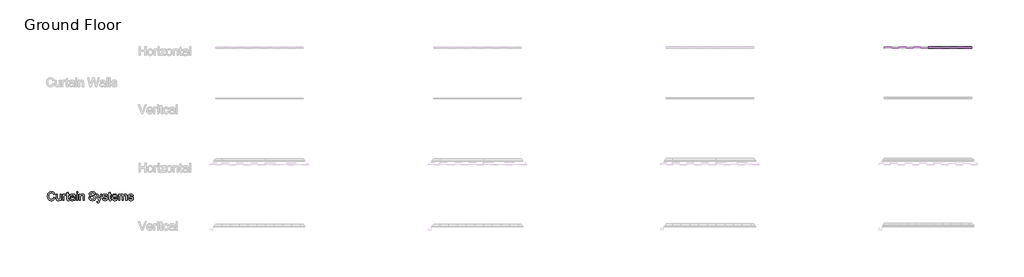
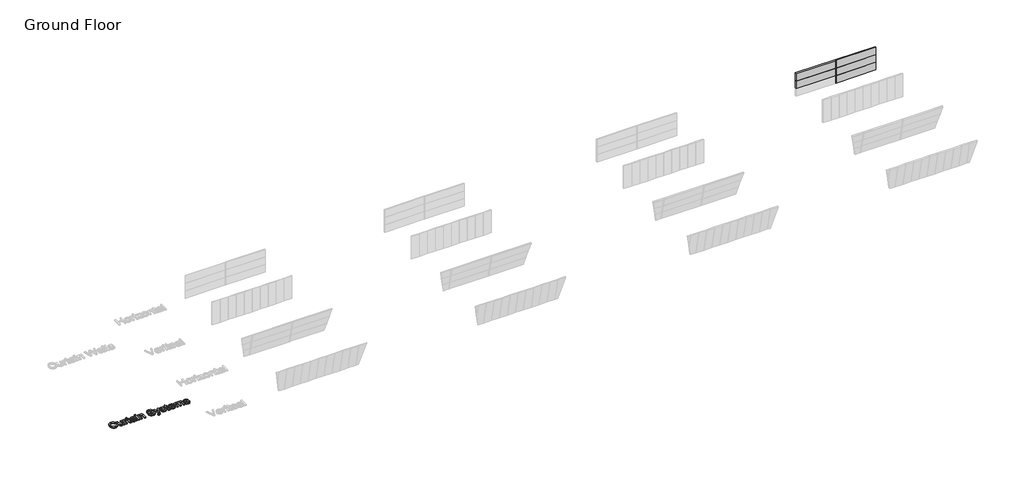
# One storey, part 3 of 9: 5 plates, 3 members, 1 proxy.
"""IFC4 building model written with IfcOpenShell, lengths in millimetres."""

from ifc_helpers import new_model, si_unit, origin, origin_with_axes, place, context, project, spatial, polyline, outline, extrude, transform, mapped, element, save
from components import rectangular_mullion_pi_mullion_20gap_50depth_70width_d0ed6173, system_panel_2d42fb1b

model = new_model("IFC4")

# Units and contexts
model_context = context("Model", 3, world=origin())
ifc_project = project(units=[si_unit("LENGTHUNIT", "METRE", prefix="MILLI")], contexts=[model_context])

# Site, building, storey
site = spatial("IfcSite", under=ifc_project)
building = spatial("IfcBuilding", under=site)
storey = spatial("IfcBuildingStorey", under=building, Name="Ground Floor", Elevation=0.0)

# Proxy
placement = place(None, origin())
element("IfcBuildingElementProxy", 1, Name="1200mm Arial", ObjectType="1200mm Arial", at=placement, inside=storey, context=model_context, shape_type="SweptSolid", body=[
    extrude(outline(polyline([(-73278.3441207, -15688.8792454), (-73131.4350298, -15726.7542454), (-73160.5048096, -15818.1151296), (-73178.6577304, -15859.4714196), (-73199.2226718, -15897.9449414), (-73222.1996338, -15933.5356952), (-73247.5886164, -15966.2436808), (-73275.3896196, -15996.0688983), (-73305.6026434, -16023.0113477), (-73337.9004062, -16046.9185964), (-73371.9556264, -16067.638212), (-73407.7683039, -16085.1701945), (-73445.3384389, -16099.5145437), (-73484.6660312, -16110.6712598), (-73525.7510809, -16118.6403427), (-73568.593588, -16123.4217925), (-73613.1935525, -16125.0156091), (-73702.7790461, -16120.1915679), (-73783.595186, -16105.7194443), (-73855.6419722, -16081.5992383), (-73918.9194048, -16047.83095), (-73974.2972457, -16004.9167099), (-74022.645257, -15953.3586488), (-74063.9634389, -15893.1567667), (-74098.2517911, -15824.3110636), (-74125.1785489, -15749.7984571), (-74144.4119474, -15672.5958647), (-74155.9519864, -15592.7032866), (-74159.7986661, -15510.1207227), (-74155.4498558, -15421.5125906), (-74142.4034247, -15338.7506943), (-74120.6593728, -15261.8350338), (-74090.2177002, -15190.7656091), (-74051.75987, -15126.7170473), (-74005.9673451, -15070.8639755), (-73952.8401256, -15023.2063939), (-73892.3782116, -14983.7443022), (-73826.6349587, -14952.800499), (-73757.663723, -14930.6977823), (-73685.4645042, -14917.4361524), (-73610.0373025, -14913.0156091), (-73526.0111129, -14918.7363122), (-73448.9609531, -14935.8984216), (-73413.0518844, -14948.7700036), (-73378.8868231, -14964.5019372), (-73346.4657693, -14983.0942223), (-73315.788723, -15004.5468591), (-73287.115716, -15028.5953321), (-73260.7067805, -15054.9751261), (-73236.5619163, -15083.6862412), (-73214.6811235, -15114.7286772), (-73177.7117521, -15183.8075125), (-73149.7986661, -15262.2116318), (-73296.707757, -15297.2173136), (-73319.8416349, -15239.4453853), (-73347.6381548, -15190.084146), (-73380.0973167, -15149.1335956), (-73417.2191207, -15116.5937341), (-73459.2187656, -15091.8010316), (-73506.3114502, -15074.0919585), (-73558.4971747, -15063.4665146), (-73615.7759389, -15059.9247), (-73681.6805908, -15063.8520792), (-73741.9542059, -15075.634217), (-73796.596784, -15095.2711133), (-73845.6083252, -15122.7627681), (-73888.3701328, -15156.871788), (-73924.2635099, -15196.3607795), (-73953.2884566, -15241.2297426), (-73975.444973, -15291.4786772), (-73991.8269864, -15344.8300622), (-74003.5284247, -15399.0063761), (-74010.5492876, -15454.007619), (-74012.8895752, -15509.8337909), (-74010.1188899, -15579.9886204), (-74001.8068337, -15645.5525409), (-73987.9534069, -15706.5255522), (-73968.5586093, -15762.9076545), (-73943.3086093, -15813.5780203), (-73911.8895752, -15857.4158221), (-73874.301507, -15894.42106), (-73830.5444048, -15924.5937341), (-73782.7433572, -15948.0055771), (-73733.0234531, -15964.7283221), (-73681.3846924, -15974.7619691), (-73627.8270752, -15978.1065181), (-73563.9578458, -15973.5514755), (-73505.1995894, -15959.8863477), (-73451.552306, -15937.1111346), (-73403.0159957, -15905.2258363), (-73360.7383856, -15864.3739187), (-73325.8672031, -15814.6988477), (-73298.4024481, -15756.2006233), (-73278.3441207, -15688.8792454)])), origin_with_axes(), (0.0, 0.0, 1.0), 150.0),
    extrude(outline(polyline([(-72396.8895752, -16106.6519727), (-72396.8895752, -15958.3082227), (-72422.3727073, -15997.3802664), (-72450.0436945, -16031.2427042), (-72479.9025369, -16059.8955363), (-72511.9492343, -16083.3387625), (-72546.1837869, -16101.5723828), (-72582.6061945, -16114.5963974), (-72621.2164573, -16122.4108061), (-72662.0145752, -16125.0156091), (-72698.410083, -16123.1864187), (-72733.5681974, -16117.6988477), (-72767.4889183, -16108.552896), (-72800.1722457, -16095.7485636), (-72830.1745539, -16080.1825125), (-72856.0522173, -16062.7514045), (-72877.8052357, -16043.4552397), (-72895.4336093, -16022.2940181), (-72909.8429666, -15998.9628747), (-72921.938936, -15973.1569443), (-72939.1907116, -15914.1207227), (-72945.6466775, -15858.45595), (-72947.7986661, -15777.5411772), (-72947.7986661, -15243.5610636), (-72800.8895752, -15243.5610636), (-72800.8895752, -15708.3906091), (-72798.6658536, -15801.3565181), (-72791.9946889, -15858.1690181), (-72783.1984353, -15884.647445), (-72770.5824019, -15908.131021), (-72754.1465887, -15928.6197461), (-72733.8909957, -15946.1136204), (-72710.4253529, -15960.1105132), (-72684.3593906, -15970.1082937), (-72655.6931086, -15976.106962), (-72624.426507, -15978.1065181), (-72592.2273771, -15976.0621289), (-72561.0504417, -15969.9289613), (-72530.8957009, -15959.7070153), (-72501.7631548, -15945.3962909), (-72475.2309282, -15927.561685), (-72452.8771462, -15906.7680948), (-72434.7018089, -15883.0155203), (-72420.7049161, -15856.3039613), (-72410.2857045, -15824.9297603), (-72402.8434105, -15787.1892596), (-72398.378034, -15743.0824592), (-72396.8895752, -15692.6093591), (-72396.8895752, -15243.5610636), (-72249.9804843, -15243.5610636), (-72249.9804843, -16106.6519727), (-72396.8895752, -16106.6519727)])), origin_with_axes(), (0.0, 0.0, 1.0), 150.0),
    extrude(outline(polyline([(-72047.9804843, -16106.6519727), (-72047.9804843, -15243.5610636), (-71919.4350298, -15243.5610636), (-71919.4350298, -15371.2457227), (-71895.2251576, -15330.4296716), (-71871.9478139, -15297.2173136), (-71849.6029985, -15271.6086488), (-71828.1907116, -15253.6036772), (-71806.7425582, -15241.1759429), (-71784.2901434, -15232.2989897), (-71760.8334673, -15226.9728179), (-71736.3725298, -15225.1974272), (-71699.9321889, -15228.0308789), (-71663.2049161, -15236.5312341), (-71626.1907116, -15250.6984926), (-71588.8895752, -15270.5326545), (-71637.9549161, -15402.2343591), (-71663.7787798, -15389.0534287), (-71689.6026434, -15379.6384784), (-71715.426507, -15373.9895082), (-71741.2503707, -15372.1065181), (-71763.7655518, -15373.9177752), (-71785.1150724, -15379.3515466), (-71805.2989325, -15388.4078321), (-71824.317132, -15401.0866318), (-71841.4523416, -15416.9754812), (-71855.9872315, -15435.6619159), (-71867.9218018, -15457.1459358), (-71877.2560525, -15481.4275409), (-71887.6752641, -15521.5262625), (-71895.1175582, -15563.4900409), (-71901.0713934, -15653.0127681), (-71901.0713934, -16106.6519727), (-72047.9804843, -16106.6519727)])), origin_with_axes(), (0.0, 0.0, 1.0), 150.0),
    extrude(outline(polyline([(-71184.8895752, -15984.1320863), (-71166.5259389, -16110.95595), (-71224.701365, -16121.5006943), (-71276.4208252, -16125.0156091), (-71313.9192272, -16123.4912838), (-71346.9343195, -16118.9183079), (-71375.4661022, -16111.2966815), (-71399.5145752, -16100.6264045), (-71419.7074019, -16087.4813406), (-71436.6722457, -16072.4353534), (-71450.4091065, -16055.4884429), (-71460.9179843, -16036.6406091), (-71468.7010099, -16011.3726758), (-71474.2603139, -15975.165467), (-71478.707757, -15869.9332227), (-71478.707757, -15390.4701545), (-71588.8895752, -15390.4701545), (-71588.8895752, -15243.5610636), (-71478.707757, -15243.5610636), (-71478.707757, -15033.8139045), (-71331.7986661, -14947.4474272), (-71331.7986661, -15243.5610636), (-71184.8895752, -15243.5610636), (-71184.8895752, -15390.4701545), (-71331.7986661, -15390.4701545), (-71331.7986661, -15865.6292454), (-71329.8618764, -15913.9772568), (-71324.051507, -15941.3792454), (-71313.901294, -15956.5507653), (-71298.944973, -15968.2073704), (-71277.7478849, -15975.6317312), (-71248.8753707, -15978.1065181), (-71184.8895752, -15984.1320863)])), origin_with_axes(), (0.0, 0.0, 1.0), 150.0),
    extrude(outline(polyline([(-70487.0713934, -15996.4701545), (-70521.9067095, -16029.1624485), (-70557.2620894, -16056.6541034), (-70593.1375333, -16078.945119), (-70629.5330411, -16096.0354954), (-70666.8610774, -16108.7142951), (-70705.5341065, -16117.7705806), (-70745.5521285, -16123.2043519), (-70786.9151434, -16125.0156091), (-70852.3266313, -16120.6578321), (-70909.6860951, -16107.5845011), (-70958.9935347, -16085.7956162), (-71000.2489502, -16055.2911772), (-71032.8246782, -16018.0079741), (-71056.0930553, -15975.8827966), (-71070.0540816, -15928.9156446), (-71074.707757, -15877.1065181), (-71072.9502997, -15845.9564826), (-71067.6779275, -15816.2052397), (-71058.8906406, -15787.8527894), (-71046.5884389, -15760.8991318), (-71031.4258856, -15735.9360636), (-71014.057544, -15713.5553818), (-70994.483414, -15693.7570863), (-70972.7034957, -15676.5411772), (-70924.104419, -15648.565325), (-70869.8384389, -15628.3366318), (-70816.9712514, -15617.0745579), (-70742.7276434, -15606.2428818), (-70592.5188366, -15583.0014045), (-70534.5227428, -15569.8742738), (-70487.9321889, -15555.7428818), (-70487.0713934, -15523.0326545), (-70489.5999801, -15487.4172426), (-70497.18574, -15457.4687341), (-70509.8286732, -15433.1871289), (-70527.5287798, -15414.5724272), (-70558.1228849, -15395.993592), (-70595.3881548, -15382.7229954), (-70639.3245894, -15374.7606375), (-70689.9321889, -15372.1065181), (-70736.989007, -15373.8729421), (-70777.4463934, -15379.1722142), (-70811.304348, -15388.0043342), (-70838.5628707, -15400.3693022), (-70860.9614857, -15417.2355132), (-70880.2397173, -15439.5713619), (-70896.3975653, -15467.3768484), (-70909.4350298, -15500.6519727), (-71056.3441207, -15482.2883363), (-71045.1627464, -15439.9658931), (-71030.8430553, -15401.9474272), (-71013.3850475, -15368.2329386), (-70992.788723, -15338.8224272), (-70968.1663863, -15313.1240963), (-70938.6303423, -15290.5461488), (-70904.1805908, -15271.0885849), (-70864.817132, -15254.7514045), (-70821.337995, -15241.8215394), (-70774.5412087, -15232.5859216), (-70724.4267734, -15227.0445508), (-70670.9946889, -15225.1974272), (-70618.7641313, -15226.8293519), (-70571.6804133, -15231.7251261), (-70529.7435347, -15239.8847497), (-70492.9534957, -15251.3082227), (-70461.005431, -15265.197516), (-70433.5944758, -15280.7546005), (-70410.7206299, -15297.9794762), (-70392.3838934, -15316.8721431), (-70377.5172386, -15337.8988654), (-70365.0536377, -15361.5259073), (-70347.335598, -15416.58095), (-70341.9556264, -15467.3678818), (-70340.1623025, -15545.1264045), (-70340.1623025, -15727.9019727), (-70338.2972457, -15887.1132653), (-70332.7020752, -15983.127825), (-70321.6552002, -16046.2169585), (-70303.4350298, -16106.6519727), (-70450.3441207, -16106.6519727), (-70463.3995184, -16082.1193022), (-70473.8725298, -16055.5781091), (-70487.0713934, -15996.4701545)]), holes=[polyline([(-70487.0713934, -15702.6519727), (-70531.4740923, -15715.3666389), (-70585.7759389, -15727.1129102), (-70724.0770752, -15747.7002681), (-70800.2933394, -15758.962342), (-70850.4705411, -15771.5156091), (-70883.3601008, -15787.7989897), (-70907.7134389, -15810.2514045), (-70922.7773593, -15837.1512625), (-70927.7986661, -15866.7769727), (-70925.0638472, -15889.6059855), (-70916.8593906, -15910.462342), (-70903.1852961, -15929.3460423), (-70884.0415639, -15946.2570863), (-70859.6075262, -15960.1912127), (-70830.0625156, -15970.1441602), (-70795.4065319, -15976.1159287), (-70755.6395752, -15978.1065181), (-70715.038723, -15975.9096964), (-70676.7333252, -15969.3192312), (-70640.723382, -15958.3351225), (-70607.0088934, -15942.9573704), (-70576.5941207, -15924.4592348), (-70550.4833252, -15904.1139755), (-70528.676507, -15881.9215927), (-70511.1736661, -15857.8820863), (-70501.0055198, -15836.3622), (-70493.7425582, -15810.2514045), (-70489.3847812, -15779.5497), (-70487.9321889, -15744.2570863), (-70487.0713934, -15702.6519727)])]), origin_with_axes(), (0.0, 0.0, 1.0), 150.0),
    extrude(outline(polyline([(-70138.1623025, -16106.6519727), (-70138.1623025, -15243.5610636), (-69991.2532116, -15243.5610636), (-69991.2532116, -16106.6519727), (-70138.1623025, -16106.6519727)])), origin_with_axes(), (0.0, 0.0, 1.0), 150.0),
    extrude(outline(polyline([(-70138.1623025, -15078.2883363), (-70138.1623025, -14931.3792454), (-69991.2532116, -14931.3792454), (-69991.2532116, -15078.2883363), (-70138.1623025, -15078.2883363)])), origin_with_axes(), (0.0, 0.0, 1.0), 150.0),
    extrude(outline(polyline([(-69770.8895752, -16106.6519727), (-69770.8895752, -15243.5610636), (-69623.9804843, -15243.5610636), (-69623.9804843, -15364.0724272), (-69599.7437123, -15331.5235991), (-69572.9424872, -15303.3146147), (-69543.5768089, -15279.4454741), (-69511.6466775, -15259.9161772), (-69477.152093, -15244.7267241), (-69440.0930553, -15233.8771147), (-69400.4695646, -15227.3673491), (-69358.2816207, -15225.1974272), (-69321.3122492, -15226.945918), (-69285.8672031, -15232.1913903), (-69251.9464822, -15240.9338441), (-69219.5500866, -15253.1732795), (-69189.9064431, -15268.2551332), (-69164.2439786, -15285.524842), (-69142.5626931, -15304.9824059), (-69124.8625866, -15326.627825), (-69098.142061, -15376.3746289), (-69080.8185525, -15434.6576545), (-69075.0081832, -15490.3941602), (-69073.0713934, -15576.6889045), (-69073.0713934, -16106.6519727), (-69219.9804843, -16106.6519727), (-69219.9804843, -15596.4872), (-69224.2127286, -15520.5220011), (-69229.503034, -15490.7707582), (-69236.9094616, -15466.5070863), (-69246.9969083, -15446.0721609), (-69260.3302712, -15427.8071573), (-69276.9095504, -15411.7120757), (-69296.7347457, -15397.7869159), (-69319.1243941, -15386.5517419), (-69343.3970326, -15378.5266176), (-69369.5526612, -15373.711543), (-69397.5912798, -15372.1065181), (-69442.2002109, -15375.7110991), (-69483.6349587, -15386.524842), (-69521.8955234, -15404.5477468), (-69556.9819048, -15429.7798136), (-69572.6846969, -15445.8166122), (-69586.2937833, -15465.0903605), (-69597.8091642, -15487.6010583), (-69607.2308394, -15513.3487056), (-69619.7930731, -15574.5548491), (-69623.9804843, -15648.7087909), (-69623.9804843, -16106.6519727), (-69770.8895752, -16106.6519727)])), origin_with_axes(), (0.0, 0.0, 1.0), 150.0),
    extrude(outline(polyline([(-68448.707757, -15702.6519727), (-68301.7986661, -15702.6519727), (-68295.0737016, -15745.4137802), (-68284.9414218, -15784.1764755), (-68271.4018266, -15818.9400586), (-68254.4549161, -15849.7045295), (-68233.2398948, -15877.0885849), (-68206.8959673, -15901.7109216), (-68175.4231335, -15923.5715394), (-68138.8213934, -15942.6704386), (-68098.43574, -15958.1737234), (-68055.6111661, -15969.2474983), (-68010.3476718, -15975.8917632), (-67962.645257, -15978.1065181), (-67920.4483465, -15976.4297603), (-67880.7979559, -15971.3994869), (-67843.6940852, -15963.0156978), (-67809.1367343, -15951.2783931), (-67777.9777322, -15936.6090039), (-67751.0689076, -15919.4289613), (-67728.4102606, -15899.7382653), (-67710.0017911, -15877.5369159), (-67695.753833, -15853.7843413), (-67685.5767201, -15829.4399698), (-67679.4704524, -15804.5038015), (-67677.4350298, -15778.9758363), (-67678.9593551, -15753.5554706), (-67683.5323309, -15729.802896), (-67691.1539573, -15707.7181126), (-67701.8242343, -15687.3011204), (-67717.2109531, -15668.44432), (-67738.9819048, -15651.0401119), (-67767.1370894, -15635.0884961), (-67801.676507, -15620.5894727), (-67879.2556974, -15597.5273278), (-68015.5841775, -15564.4943022), (-68156.001436, -15527.3724983), (-68207.2456654, -15509.4840927), (-68245.8469616, -15492.0440181), (-68285.0759211, -15468.6411417), (-68318.9787087, -15442.6200125), (-68347.5553245, -15413.9806304), (-68370.8057684, -15382.7229954), (-68388.8197066, -15349.1699059), (-68401.6868053, -15313.6441602), (-68409.4070646, -15276.1457582), (-68411.9804843, -15236.6747), (-68408.7973345, -15192.9265643), (-68399.2478849, -15150.631021), (-68383.3321356, -15109.78807), (-68361.0500866, -15070.3977113), (-68332.6528032, -15034.0649698), (-68298.3913508, -15002.3948704), (-68258.2657293, -14975.387413), (-68212.2759389, -14953.0425977), (-68161.9732045, -14935.5307902), (-68108.9087514, -14923.0223562), (-68053.0825795, -14915.5172958), (-67994.4946889, -14913.0156091), (-67930.5806264, -14915.6338619), (-67870.5401434, -14923.4886204), (-67814.37324, -14936.5798846), (-67762.0799161, -14954.9076545), (-67714.6285667, -14978.3105309), (-67672.9875866, -15006.6271147), (-67637.1569758, -15039.8574059), (-67607.1367343, -15078.0014045), (-67583.1599943, -15119.9472497), (-67565.4598877, -15164.5830806), (-67554.0364147, -15211.9088974), (-67548.8895752, -15261.9247), (-67695.7986661, -15261.9247), (-67705.6260809, -15215.0472142), (-67722.770257, -15174.2670295), (-67747.2311945, -15139.584146), (-67779.0088934, -15110.9985636), (-67818.6951505, -15088.6537483), (-67866.8817627, -15072.6931659), (-67923.5687301, -15063.1168164), (-67988.7560525, -15059.9247), (-68056.0236306, -15063.08095), (-68113.4996605, -15072.5497), (-68161.184142, -15088.33095), (-68199.0770752, -15110.4247), (-68227.9495894, -15136.9838264), (-68248.5728139, -15166.1612056), (-68260.9467485, -15197.9568377), (-68265.0713934, -15232.3707227), (-68262.1482755, -15261.9784997), (-68253.3789218, -15288.8245579), (-68238.7633323, -15312.9088974), (-68218.301507, -15334.2315181), (-68186.0934105, -15354.4243448), (-68135.3782116, -15374.8323704), (-68066.1559105, -15395.4555948), (-67978.426507, -15416.2940181), (-67816.4534957, -15455.6754102), (-67759.4616633, -15473.4831162), (-67718.4662798, -15490.0354954), (-67673.4269509, -15515.1240963), (-67634.7180553, -15543.3330806), (-67602.339593, -15574.6624485), (-67576.2915639, -15609.1122), (-67556.2691029, -15646.5030025), (-67541.9673451, -15686.6555238), (-67533.3862904, -15729.5697639), (-67530.5259389, -15775.2457227), (-67533.8166881, -15821.1996467), (-67543.688936, -15865.8085778), (-67560.1426825, -15909.072516), (-67583.1779275, -15950.9914613), (-67612.3911732, -15989.9424556), (-67647.3789218, -16024.3025409), (-67688.1411732, -16054.071717), (-67734.6779275, -16079.2499841), (-67785.6352251, -16099.272445), (-67839.6591065, -16113.5742028), (-67896.7495717, -16122.1552575), (-67956.9066207, -16125.0156091), (-68032.0558572, -16121.931092), (-68100.838794, -16112.6775409), (-68163.255431, -16097.2549556), (-68219.3057684, -16075.6633363), (-68269.3305376, -16047.8668164), (-68313.6704701, -16013.8295295), (-68352.325566, -15973.5514755), (-68385.2958252, -15927.0326545), (-68411.8549516, -15875.7794585), (-68431.2766491, -15821.2982795), (-68443.5609176, -15763.5891176), (-68448.707757, -15702.6519727)])), origin_with_axes(), (0.0, 0.0, 1.0), 150.0),
    extrude(outline(polyline([(-67328.5259389, -16437.1974272), (-67346.8895752, -16295.7400409), (-67306.8625866, -16305.4239897), (-67272.2873025, -16308.6519727), (-67233.0493764, -16304.5990608), (-67202.5628707, -16292.440325), (-67178.8192627, -16273.0365608), (-67159.8100298, -16247.2485636), (-67143.598382, -16209.3018306), (-67119.6395752, -16139.0752681), (-67108.1623025, -16103.4957227), (-67420.3441207, -15243.5610636), (-67265.4009389, -15243.5610636), (-67099.8412798, -15722.7372), (-67069.3547741, -15816.2769727), (-67042.1679843, -15914.4076545), (-66984.4946889, -15745.1178818), (-66814.3441207, -15243.5610636), (-66660.5486661, -15243.5610636), (-66960.9662798, -16127.3110636), (-67005.5841775, -16244.8096431), (-67039.0117343, -16318.9815181), (-67058.3258323, -16351.9248775), (-67078.96699, -16380.1697284), (-67100.9352073, -16403.7160707), (-67124.2304843, -16422.5639045), (-67149.3549516, -16437.0001616), (-67176.81074, -16447.3117738), (-67206.5978494, -16453.4987412), (-67238.7162798, -16455.5610636), (-67281.2539218, -16450.9701545), (-67328.5259389, -16437.1974272)])), origin_with_axes(), (0.0, 0.0, 1.0), 150.0),
    extrude(outline(polyline([(-66593.9804843, -15849.5610636), (-66447.0713934, -15831.1974272), (-66438.1944403, -15864.696717), (-66423.9016491, -15894.0354954), (-66404.1930198, -15919.2137625), (-66379.0685525, -15940.2315181), (-66348.4565141, -15956.8018306), (-66312.2851718, -15968.6377681), (-66270.5545255, -15975.7393306), (-66223.2645752, -15978.1065181), (-66176.0284247, -15975.9365963), (-66135.319973, -15969.4268306), (-66101.1392201, -15958.5772213), (-66073.4861661, -15943.3877681), (-66052.1456122, -15925.2751971), (-66036.9023593, -15905.6562341), (-66027.7564076, -15884.5308789), (-66024.707757, -15861.8991318), (-66027.7743408, -15842.0649698), (-66036.9740923, -15824.4545295), (-66052.3070113, -15809.0678108), (-66073.773098, -15795.9048136), (-66128.7922741, -15777.2542454), (-66224.9861661, -15754.0127681), (-66359.0550582, -15715.2411062), (-66446.210598, -15682.1363477), (-66476.1322066, -15665.5391353), (-66502.198169, -15646.0188051), (-66524.408485, -15623.5753569), (-66542.7631548, -15598.2087909), (-66557.1366455, -15570.6812696), (-66567.4034247, -15541.7549556), (-66573.5634921, -15511.4298491), (-66575.616848, -15479.70595), (-66573.96699, -15450.6989365), (-66569.0174161, -15422.7858505), (-66560.7681264, -15395.9666921), (-66549.2191207, -15370.2414613), (-66534.8187301, -15346.130222), (-66518.0152855, -15324.153038), (-66498.8087869, -15304.3099095), (-66477.1992343, -15286.6008363), (-66436.6342485, -15262.9648278), (-66383.8029275, -15243.1306659), (-66322.7223167, -15229.6807369), (-66257.4094616, -15225.1974272), (-66208.0392556, -15226.9997177), (-66161.7894332, -15232.4065892), (-66118.6599943, -15241.4180416), (-66078.6509389, -15254.034075), (-66042.7127286, -15269.7256588), (-66011.7958252, -15287.9637625), (-65985.9002286, -15308.748386), (-65965.0259389, -15332.0795295), (-65948.0969616, -15358.7731552), (-65934.0373025, -15389.6452255), (-65922.8469616, -15424.6957404), (-65914.5259389, -15463.9247), (-66061.4350298, -15482.2883363), (-66068.4379595, -15457.7466993), (-66079.9779985, -15436.0564471), (-66096.055147, -15417.2175799), (-66116.6694048, -15401.2300977), (-66141.9104381, -15388.4885316), (-66171.8679133, -15379.387413), (-66206.5418302, -15373.9267419), (-66245.9321889, -15372.1065181), (-66291.6260809, -15373.8460423), (-66330.2901434, -15379.0646147), (-66361.9243764, -15387.7622355), (-66386.5287798, -15399.9389045), (-66404.9820823, -15414.4289613), (-66418.1630127, -15430.0667454), (-66426.071571, -15446.8522568), (-66428.707757, -15464.7854954), (-66424.3320468, -15487.3813761), (-66411.2049161, -15507.5383363), (-66388.7525014, -15525.5433079), (-66356.4009389, -15539.9616318), (-66229.864007, -15571.2372), (-66100.0632258, -15609.6143306), (-66014.2347457, -15640.3877681), (-65984.0351718, -15655.3978889), (-65957.2787798, -15673.4566602), (-65933.9655695, -15694.5640821), (-65914.0955411, -15718.7201545), (-65898.2156583, -15745.960744), (-65886.8728849, -15776.321717), (-65880.0672208, -15809.8030735), (-65877.7986661, -15846.4048136), (-65880.4617521, -15883.1679528), (-65888.4510099, -15918.8550977), (-65901.7664396, -15953.4662483), (-65920.4080411, -15987.0014045), (-65944.0709495, -16018.1245402), (-65972.4502997, -16045.4996289), (-66005.5460916, -16069.1266708), (-66043.3583252, -16089.0056659), (-66084.8558394, -16104.760016), (-66129.007473, -16116.0131233), (-66175.8132258, -16122.7649876), (-66225.273098, -16125.0156091), (-66304.3407471, -16120.6757653), (-66373.4016491, -16107.6562341), (-66432.4558039, -16085.9570153), (-66481.5032116, -16055.5781091), (-66521.5660667, -16016.6629812), (-66553.6665639, -15969.3550977), (-66577.8047031, -15913.6544585), (-66593.9804843, -15849.5610636)])), origin_with_axes(), (0.0, 0.0, 1.0), 150.0),
    extrude(outline(polyline([(-65400.3441207, -15984.1320863), (-65381.9804843, -16110.95595), (-65440.1559105, -16121.5006943), (-65491.8753707, -16125.0156091), (-65529.3737727, -16123.4912838), (-65562.388865, -16118.9183079), (-65590.9206477, -16111.2966815), (-65614.9691207, -16100.6264045), (-65635.1619474, -16087.4813406), (-65652.1267911, -16072.4353534), (-65665.8636519, -16055.4884429), (-65676.3725298, -16036.6406091), (-65684.1555553, -16011.3726758), (-65689.7148593, -15975.165467), (-65694.1623025, -15869.9332227), (-65694.1623025, -15390.4701545), (-65804.3441207, -15390.4701545), (-65804.3441207, -15243.5610636), (-65694.1623025, -15243.5610636), (-65694.1623025, -15033.8139045), (-65547.2532116, -14947.4474272), (-65547.2532116, -15243.5610636), (-65400.3441207, -15243.5610636), (-65400.3441207, -15390.4701545), (-65547.2532116, -15390.4701545), (-65547.2532116, -15865.6292454), (-65545.3164218, -15913.9772568), (-65539.5060525, -15941.3792454), (-65529.3558394, -15956.5507653), (-65514.3995184, -15968.2073704), (-65493.2024303, -15975.6317312), (-65464.3299161, -15978.1065181), (-65400.3441207, -15984.1320863)])), origin_with_axes(), (0.0, 0.0, 1.0), 150.0),
    extrude(outline(polyline([(-64649.1566207, -15849.5610636), (-64505.116848, -15867.9247), (-64527.2016313, -15925.6159287), (-64557.0156406, -15976.4566602), (-64594.5588756, -16020.4468946), (-64639.8313366, -16057.5866318), (-64692.3667592, -16087.0868093), (-64751.6988792, -16108.1583647), (-64817.8276967, -16120.801298), (-64890.7532116, -16125.0156091), (-64937.5724144, -16123.197627), (-64981.9078636, -16117.7436808), (-65023.7595592, -16108.6537705), (-65063.1275014, -16095.927896), (-65100.0116899, -16079.5660574), (-65134.4121249, -16059.5682546), (-65166.3288064, -16035.9344878), (-65195.7617343, -16008.6647568), (-65222.1908448, -15978.1132431), (-65245.0960738, -15944.6341282), (-65264.4774215, -15908.2274121), (-65280.3348877, -15868.8930948), (-65292.6684726, -15826.6311763), (-65301.4781761, -15781.4416566), (-65306.7639982, -15733.3245357), (-65308.5259389, -15682.2798136), (-65306.7460649, -15629.497809), (-65301.4064431, -15579.7554883), (-65292.5070734, -15533.0528516), (-65280.0479559, -15489.3898988), (-65264.0290905, -15448.76663), (-65244.4504772, -15411.1830451), (-65221.3121161, -15376.6391442), (-65194.614007, -15345.1349272), (-65165.077963, -15317.0245757), (-65133.4257968, -15292.662271), (-65099.6575085, -15272.0480132), (-65063.773098, -15255.1818022), (-65025.7725653, -15242.0636382), (-64985.6559105, -15232.693521), (-64943.4231335, -15227.0714507), (-64899.0742343, -15225.1974272), (-64856.1756858, -15227.0669674), (-64815.2811768, -15232.6755877), (-64776.3907071, -15242.0232884), (-64739.5042769, -15255.1100693), (-64704.6218861, -15271.9359304), (-64671.7435347, -15292.5008718), (-64640.8692228, -15316.8048935), (-64611.9989502, -15344.8479954), (-64585.8724632, -15376.2804794), (-64563.2295078, -15410.7526474), (-64544.0700839, -15448.2644993), (-64528.3941917, -15488.8160352), (-64516.2018311, -15532.407255), (-64507.4930021, -15579.0381588), (-64502.2677047, -15628.7087465), (-64500.5259389, -15681.4190181), (-64501.3867343, -15721.0156091), (-65161.616848, -15721.0156091), (-65153.1075262, -15779.6393662), (-65136.1875156, -15830.9822284), (-65110.856816, -15875.0441957), (-65077.1154275, -15911.8252681), (-65036.8284069, -15940.823315), (-64991.860811, -15961.5362056), (-64942.2126399, -15973.96394), (-64887.8838934, -15978.1065181), (-64847.2471747, -15976.1876616), (-64809.694973, -15970.431092), (-64775.2272883, -15960.8368093), (-64743.8441207, -15947.4048136), (-64715.5454701, -15929.77644), (-64690.3313366, -15907.5930238), (-64668.2017201, -15880.854565), (-64649.1566207, -15849.5610636)]), holes=[polyline([(-65161.616848, -15574.1065181), (-64647.4350298, -15574.1065181), (-64654.9849232, -15532.537271), (-64667.3050582, -15496.4914613), (-64684.3954346, -15465.9690892), (-64706.2560525, -15440.9701545), (-64746.3189076, -15410.8423136), (-64791.9052002, -15389.3224272), (-64843.0149303, -15376.4104954), (-64899.648098, -15372.1065181), (-64951.3047918, -15375.5407333), (-64998.6754417, -15385.8433789), (-65041.7600475, -15403.0144549), (-65080.5586093, -15427.0539613), (-65113.1164041, -15456.8500373), (-65137.4787087, -15491.2908221), (-65153.6455234, -15530.3763157), (-65161.616848, -15574.1065181)])]), origin_with_axes(), (0.0, 0.0, 1.0), 150.0),
    extrude(outline(polyline([(-64353.616848, -16106.6519727), (-64353.616848, -15243.5610636), (-64206.707757, -15243.5610636), (-64206.707757, -15385.5923136), (-64186.192132, -15351.2053285), (-64162.520257, -15320.3511914), (-64135.692132, -15293.0299024), (-64105.707757, -15269.2414613), (-64073.0513295, -15249.9721964), (-64038.2070468, -15236.2084358), (-64001.174909, -15227.9501794), (-63961.9549161, -15225.1974272), (-63919.0765426, -15228.0039791), (-63880.2510809, -15236.4236346), (-63845.4785312, -15250.4563939), (-63814.7588934, -15270.1022568), (-63788.1818337, -15294.805293), (-63765.8370184, -15324.0095721), (-63747.7244474, -15357.7150941), (-63733.8441207, -15395.9218591), (-63708.0112904, -15355.9083203), (-63680.2954701, -15321.2299201), (-63650.6966597, -15291.8866584), (-63619.2148593, -15267.8785352), (-63585.8500688, -15249.2055505), (-63550.6022883, -15235.8677042), (-63513.4715177, -15227.8649965), (-63474.457757, -15225.1974272), (-63415.6457009, -15229.6359038), (-63364.0248735, -15242.9513335), (-63319.5952748, -15265.1437163), (-63282.3569048, -15296.2130522), (-63252.9194935, -15336.5180061), (-63231.8927712, -15386.4172426), (-63219.2767379, -15445.9107618), (-63215.0713934, -15514.9985636), (-63215.0713934, -16106.6519727), (-63361.9804843, -16106.6519727), (-63361.9804843, -15578.1235636), (-63365.3877997, -15504.8483505), (-63375.6097457, -15455.4602113), (-63383.8052357, -15437.6435387), (-63394.7624445, -15421.6381233), (-63408.4813721, -15407.4439649), (-63424.9620184, -15395.0610636), (-63443.60362, -15385.01845), (-63463.8054133, -15377.8451545), (-63508.8895752, -15372.1065181), (-63550.5215887, -15375.7828321), (-63588.4772883, -15386.8117738), (-63622.7566739, -15405.1933434), (-63653.3597457, -15430.9275409), (-63678.5290461, -15464.7675622), (-63696.5071178, -15507.4666034), (-63707.2939609, -15559.0246644), (-63710.8895752, -15619.4417454), (-63710.8895752, -16106.6519727), (-63857.7986661, -16106.6519727), (-63857.7986661, -15561.76845), (-63859.9237549, -15517.2581517), (-63866.2990212, -15478.7016886), (-63876.9244651, -15446.0990608), (-63891.8000866, -15419.4502681), (-63911.5176825, -15398.7373775), (-63936.6690497, -15383.9424556), (-63967.2541881, -15375.0655025), (-64003.273098, -15372.1065181), (-64032.1276789, -15374.0791744), (-64059.8703991, -15379.9971431), (-64086.5012585, -15389.8604244), (-64112.020257, -15403.6690181), (-64135.2617343, -15421.2794585), (-64155.0600298, -15442.5482795), (-64171.4151434, -15467.4754812), (-64184.3270752, -15496.0610636), (-64194.1186235, -15529.8293519), (-64201.1125866, -15570.3046716), (-64206.707757, -15671.3764045), (-64206.707757, -16106.6519727), (-64353.616848, -16106.6519727)])), origin_with_axes(), (0.0, 0.0, 1.0), 150.0),
    extrude(outline(polyline([(-63049.7986661, -15849.5610636), (-62902.8895752, -15831.1974272), (-62894.0126221, -15864.696717), (-62879.7198309, -15894.0354954), (-62860.0112016, -15919.2137625), (-62834.8867343, -15940.2315181), (-62804.274696, -15956.8018306), (-62768.1033536, -15968.6377681), (-62726.3727073, -15975.7393306), (-62679.082757, -15978.1065181), (-62631.8466065, -15975.9365963), (-62591.1381548, -15969.4268306), (-62556.9574019, -15958.5772213), (-62529.304348, -15943.3877681), (-62507.963794, -15925.2751971), (-62492.7205411, -15905.6562341), (-62483.5745894, -15884.5308789), (-62480.5259389, -15861.8991318), (-62483.5925227, -15842.0649698), (-62492.7922741, -15824.4545295), (-62508.1251931, -15809.0678108), (-62529.5912798, -15795.9048136), (-62584.6104559, -15777.2542454), (-62680.804348, -15754.0127681), (-62814.87324, -15715.2411062), (-62902.0287798, -15682.1363477), (-62931.9503884, -15665.5391353), (-62958.0163508, -15646.0188051), (-62980.2266668, -15623.5753569), (-62998.5813366, -15598.2087909), (-63012.9548274, -15570.6812696), (-63023.2216065, -15541.7549556), (-63029.3816739, -15511.4298491), (-63031.4350298, -15479.70595), (-63029.7851718, -15450.6989365), (-63024.835598, -15422.7858505), (-63016.5863082, -15395.9666921), (-63005.0373025, -15370.2414613), (-62990.6369119, -15346.130222), (-62973.8334673, -15324.153038), (-62954.6269687, -15304.3099095), (-62933.0174161, -15286.6008363), (-62892.4524303, -15262.9648278), (-62839.6211093, -15243.1306659), (-62778.5404985, -15229.6807369), (-62713.2276434, -15225.1974272), (-62663.8574374, -15226.9997177), (-62617.607615, -15232.4065892), (-62574.4781761, -15241.4180416), (-62534.4691207, -15254.034075), (-62498.5309105, -15269.7256588), (-62467.614007, -15287.9637625), (-62441.7184105, -15308.748386), (-62420.8441207, -15332.0795295), (-62403.9151434, -15358.7731552), (-62389.8554843, -15389.6452255), (-62378.6651434, -15424.6957404), (-62370.3441207, -15463.9247), (-62517.2532116, -15482.2883363), (-62524.2561413, -15457.7466993), (-62535.7961803, -15436.0564471), (-62551.8733288, -15417.2175799), (-62572.4875866, -15401.2300977), (-62597.72862, -15388.4885316), (-62627.6860951, -15379.387413), (-62662.360012, -15373.9267419), (-62701.7503707, -15372.1065181), (-62747.4442627, -15373.8460423), (-62786.1083252, -15379.0646147), (-62817.7425582, -15387.7622355), (-62842.3469616, -15399.9389045), (-62860.8002641, -15414.4289613), (-62873.9811945, -15430.0667454), (-62881.8897528, -15446.8522568), (-62884.5259389, -15464.7854954), (-62880.1502286, -15487.3813761), (-62867.023098, -15507.5383363), (-62844.5706832, -15525.5433079), (-62812.2191207, -15539.9616318), (-62685.6821889, -15571.2372), (-62555.8814076, -15609.6143306), (-62470.0529275, -15640.3877681), (-62439.8533536, -15655.3978889), (-62413.0969616, -15673.4566602), (-62389.7837514, -15694.5640821), (-62369.913723, -15718.7201545), (-62354.0338401, -15745.960744), (-62342.6910667, -15776.321717), (-62335.8854026, -15809.8030735), (-62333.616848, -15846.4048136), (-62336.2799339, -15883.1679528), (-62344.2691917, -15918.8550977), (-62357.5846214, -15953.4662483), (-62376.226223, -15987.0014045), (-62399.8891313, -16018.1245402), (-62428.2684815, -16045.4996289), (-62461.3642734, -16069.1266708), (-62499.176507, -16089.0056659), (-62540.6740212, -16104.760016), (-62584.8256548, -16116.0131233), (-62631.6314076, -16122.7649876), (-62681.0912798, -16125.0156091), (-62760.1589289, -16120.6757653), (-62829.2198309, -16107.6562341), (-62888.2739857, -16085.9570153), (-62937.3213934, -16055.5781091), (-62977.3842485, -16016.6629812), (-63009.4847457, -15969.3550977), (-63033.6228849, -15913.6544585), (-63049.7986661, -15849.5610636)])), origin_with_axes(), (0.0, 0.0, 1.0), 150.0),
])

# Members
rectangular_mullion_pi_mullion_20gap_50depth_70width_shape = rectangular_mullion_pi_mullion_20gap_50depth_70width_d0ed6173(model_context)
element("IfcMember", 2, ObjectType="Rectangular Mullion : PI-Mullion - 20Gap-50Depth-70Width", at=placement, inside=storey, context=model_context, shape_type="MappedRepresentation", body=[
    mapped(rectangular_mullion_pi_mullion_20gap_50depth_70width_shape, transform((47002.466571, 4866.6714822, 2400.0), x_axis=(1.0, 0.0, 0.0), y_axis=(0.0, -1.0, 0.0), z_axis=(0.0, 0.0, -1.0))),
])
element("IfcMember", 3, ObjectType="Rectangular Mullion : PI-Mullion - 20Gap-50Depth-70Width", at=placement, inside=storey, context=model_context, shape_type="MappedRepresentation", body=[
    mapped(rectangular_mullion_pi_mullion_20gap_50depth_70width_shape, transform((47002.466571, 4866.6714822, 1200.0), x_axis=(1.0, 0.0, 0.0), y_axis=(0.0, -1.0, 0.0), z_axis=(0.0, 0.0, -1.0))),
])
element("IfcMember", 4, ObjectType="Rectangular Mullion : PI-Mullion - 20Gap-50Depth-70Width", at=placement, inside=storey, context=model_context, shape_type="MappedRepresentation", body=[
    mapped(rectangular_mullion_pi_mullion_20gap_50depth_70width_shape, transform((47002.466571, 4866.6714822, 0.0), x_axis=(1.0, 0.0, 0.0), y_axis=(0.0, -1.0, 0.0), z_axis=(0.0, 0.0, -1.0))),
])

# Plates
system_panel_shape = system_panel_2d42fb1b(model_context)
element("IfcPlate", 5, ObjectType="System Panel : Equitilt 200mm Horizontal - Plain RHEA - EPS-FR", at=placement, inside=storey, context=model_context, shape_type="MappedRepresentation", body=[
    mapped(system_panel_shape, transform((43997.466571, 4866.6714822, 1200.0), x_axis=(1.0, 0.0, 0.0), y_axis=(0.0, 1.0, 0.0), z_axis=(0.0, 0.0, 1.0))),
])
element("IfcPlate", 6, ObjectType="System Panel : Equitilt 200mm Horizontal - Plain RHEA - EPS-FR", at=placement, inside=storey, context=model_context, shape_type="MappedRepresentation", body=[
    mapped(system_panel_shape, transform((43997.466571, 4866.6714822, 2400.0), x_axis=(1.0, 0.0, 0.0), y_axis=(0.0, 1.0, 0.0), z_axis=(0.0, 0.0, 1.0))),
])
element("IfcPlate", 7, ObjectType="System Panel : Equitilt 200mm Horizontal - Plain RHEA - EPS-FR", at=placement, inside=storey, context=model_context, shape_type="MappedRepresentation", body=[
    mapped(system_panel_shape, transform((50007.466571, 4866.6714822, 0.0), x_axis=(1.0, 0.0, 0.0), y_axis=(0.0, 1.0, 0.0), z_axis=(0.0, 0.0, 1.0))),
])
element("IfcPlate", 8, ObjectType="System Panel : Equitilt 200mm Horizontal - Plain RHEA - EPS-FR", at=placement, inside=storey, context=model_context, shape_type="MappedRepresentation", body=[
    mapped(system_panel_shape, transform((50007.466571, 4866.6714822, 1200.0), x_axis=(1.0, 0.0, 0.0), y_axis=(0.0, 1.0, 0.0), z_axis=(0.0, 0.0, 1.0))),
])
element("IfcPlate", 9, ObjectType="System Panel : Equitilt 200mm Horizontal - Plain RHEA - EPS-FR", at=placement, inside=storey, context=model_context, shape_type="MappedRepresentation", body=[
    mapped(system_panel_shape, transform((50007.466571, 4866.6714822, 2400.0), x_axis=(1.0, 0.0, 0.0), y_axis=(0.0, 1.0, 0.0), z_axis=(0.0, 0.0, 1.0))),
])

save(model, "model.ifc")
